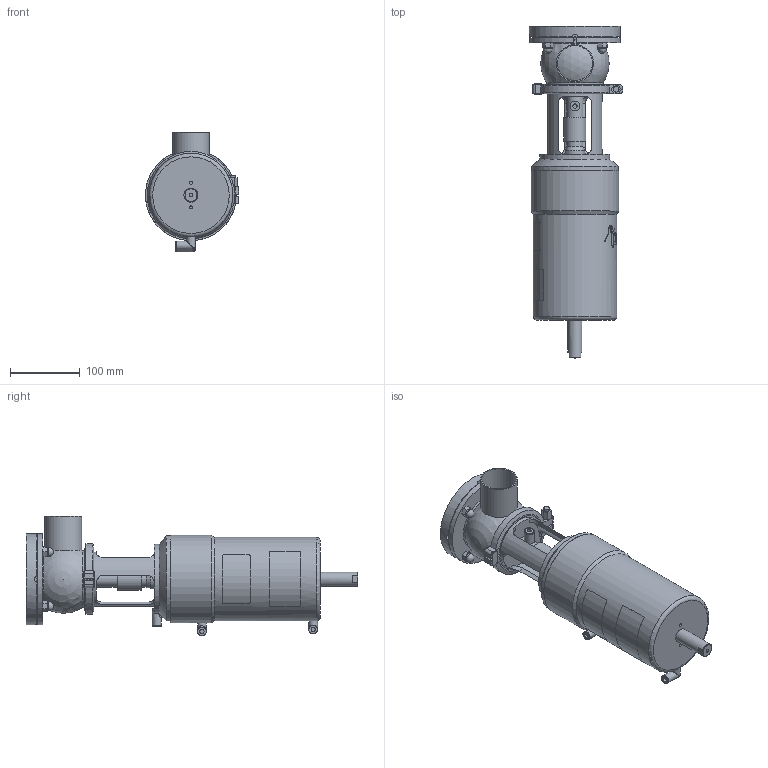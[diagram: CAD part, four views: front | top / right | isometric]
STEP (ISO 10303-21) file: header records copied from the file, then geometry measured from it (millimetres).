
FILE_DESCRIPTION (( 'STEP AP214' ), '1' );
FILE_NAME ('INNOVA T L W DIN 050 WITH FLANGE_10.252.16.0005.STEP', '2024-08-21T11:28:25', ( '' ), ( '' ), 'SwSTEP 2.0', 'SolidWorks 2023', '' );
FILE_SCHEMA (( 'AUTOMOTIVE_DESIGN' ));
Length unit declared in the file: millimetre
Products named in the file (6): 10.248.15.0003_DIN 050 _ OD 2"; INNOVA T L W DIN 050 WITH FLANGE_10.252.16.0005; 10.240.15.0006_DIN 050; 10.250.15.0002_Type T T1; 10.240.15.0001_DN 050; 10.252.15.0001_DIN 050
Assembly tree (5 placements, depth 2):
  INNOVA T L W DIN 050 WITH FLANGE_10.252.16.0005
    10.240.15.0006_DIN 050
    10.248.15.0003_DIN 050 _ OD 2"
    10.252.15.0001_DIN 050
    10.250.15.0002_Type T T1
    10.240.15.0001_DN 050
Bounding box: 133 x 474.33 x 171 mm (x, y, z)
Volume: 3604251.9 mm3; surface area: 304708 mm2
Topology: 5 solids, 5 shells, 418 faces, 1098 edges, 715 vertices
Faces by surface type: plane 197, cylinder 110, bspline 83, cone 21, sphere 6, torus 1
Full cylindrical faces by diameter (mm): 4.2 x2, 5 x1, 6 x1, 6.15 x3, 8 x2, 10.5 x3, 12 x1, 12.5 x13, 14 x2, 20 x1, 23 x2, 28 x1, 31.5 x1, 50 x1, 53 x1, 78 x1, 81 x2, 93 x3, 104 x1, 119.5 x1, 125 x1, 130 x1
Entity records: 23010 total; most frequent: CARTESIAN_POINT 11857, ORIENTED_EDGE 1990, DIRECTION 1595, EDGE_CURVE 995, VERTEX_POINT 687, AXIS2_PLACEMENT_3D 596, EDGE_LOOP 528, FACE_OUTER_BOUND 467
